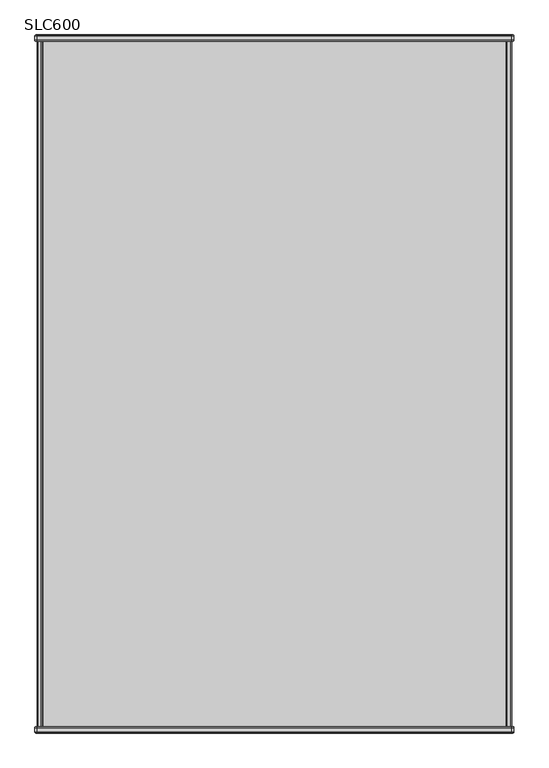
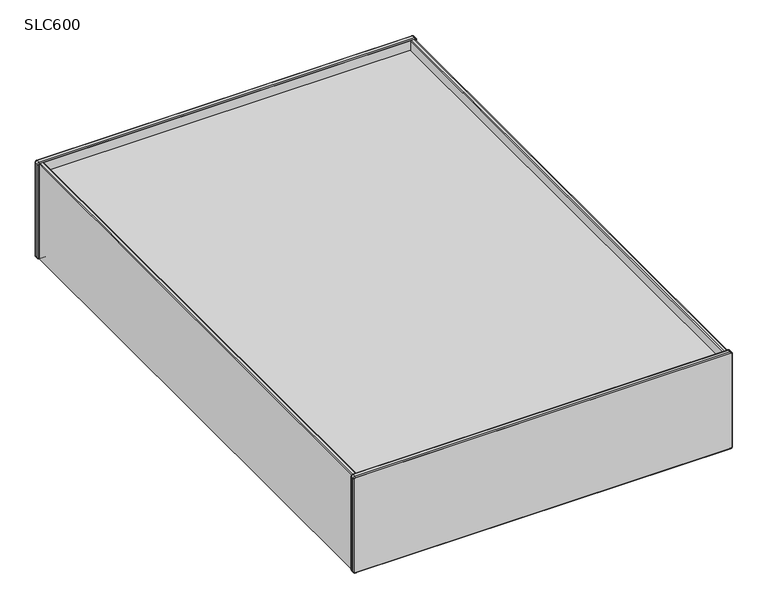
"""IFC4 building model written with IfcOpenShell, lengths in millimetres: furniture geometry, Stance_HC-Lotus-Platform_Bed : SLC600."""

from ifc_helpers import new_model, si_unit, point, frame, frame_2d, origin, place, context, project, spatial, polyline, circle_curve, ellipse_curve, trimmed, segment, composite_curve, outline, extrude, source, transform, mapped, element, save
from ifc_brep_helpers import plane_surface, cylinder_surface, revolved_surface, advanced_brep


def slc600_16307067(model_context):
    return source(origin(), model_context, "Body", "SolidModel", [
        extrude(outline(polyline([(1404.1437258, -2063.75), (24.6062492, -2063.75), (24.6062492, -19.05), (1404.1437258, -19.05), (1404.1437258, -2063.75)])), frame((0.0, 0.0, 323.85), z_axis=(0.0, 0.0, 1.0), x_axis=(1.0, 0.0, 0.0)), (0.0, 0.0, 1.0), 19.05),
        extrude(outline(composite_curve([segment(polyline([(0.0, 22.2249992), (377.825, 22.2249992)]), True, "CONTINUOUS"), segment(trimmed(circle_curve(frame_2d((377.825, 19.0499992)), 3.175), [point((377.825, 22.2249992))], [point((381.0, 19.0499992))], False, "CARTESIAN"), True, "CONTINUOUS"), segment(polyline([(381.0, 19.0499992), (381.0, 9.5250002)]), True, "CONTINUOUS"), segment(trimmed(circle_curve(frame_2d((377.825, 9.5250002)), 3.175), [point((381.0, 9.5250002))], [point((377.825, 6.3500002))], False, "CARTESIAN"), True, "CONTINUOUS"), segment(polyline([(377.825, 6.3500002), (0.0, 6.3500002), (0.0, 22.2249992)]), True, "CONTINUOUS")], self_intersect=False)), frame((0.0, -2063.75, 0.0), z_axis=(0.0, 1.0, 0.0), x_axis=(0.0, 0.0, 1.0)), (0.0, 0.0, 1.0), 2044.7),
        extrude(outline(composite_curve([segment(polyline([(0.0, 1406.5250008), (0.0, 1422.3999998), (377.825, 1422.3999998)]), True, "CONTINUOUS"), segment(trimmed(circle_curve(frame_2d((377.825, 1419.2249998)), 3.175), [point((377.825, 1422.3999998))], [point((381.0, 1419.2249998))], False, "CARTESIAN"), True, "CONTINUOUS"), segment(polyline([(381.0, 1419.2249998), (381.0, 1409.7000008)]), True, "CONTINUOUS"), segment(trimmed(circle_curve(frame_2d((377.825, 1409.7000008)), 3.175), [point((381.0, 1409.7000008))], [point((377.825, 1406.5250008))], False, "CARTESIAN"), True, "CONTINUOUS"), segment(polyline([(377.825, 1406.5250008), (0.0, 1406.5250008)]), True, "CONTINUOUS")], self_intersect=False)), frame((0.0, -2063.75, 0.0), z_axis=(0.0, 1.0, 0.0), x_axis=(0.0, 0.0, 1.0)), (0.0, 0.0, 1.0), 2044.7),
        extrude(outline(composite_curve([segment(trimmed(circle_curve(frame_2d((6.35, 1422.4)), 3.1749999), [point((3.1750001, 1422.4))], [point((6.35, 1425.5749999))], False, "CARTESIAN"), True, "CONTINUOUS"), segment(polyline([(6.35, 1425.5749999), (377.8249879, 1425.5749999)]), True, "CONTINUOUS"), segment(trimmed(circle_curve(frame_2d((377.8249879, 1422.4)), 3.1749999), [point((377.8249879, 1425.5749999))], [point((380.9999878, 1422.4))], False, "CARTESIAN"), True, "CONTINUOUS"), segment(polyline([(380.9999878, 1422.4), (380.9999878, 6.35)]), True, "CONTINUOUS"), segment(trimmed(circle_curve(frame_2d((377.8249879, 6.35)), 3.1749999), [point((380.9999878, 6.35))], [point((377.8249879, 3.1750001))], False, "CARTESIAN"), True, "CONTINUOUS"), segment(polyline([(377.8249879, 3.1750001), (6.35, 3.1750001)]), True, "CONTINUOUS"), segment(trimmed(circle_curve(frame_2d((6.35, 6.35)), 3.1749999), [point((6.35, 3.1750001))], [point((3.1750001, 6.35))], False, "CARTESIAN"), True, "CONTINUOUS"), segment(polyline([(3.1750001, 6.35), (3.1750001, 1422.4)]), True, "CONTINUOUS")], self_intersect=False)), frame((0.0, -2082.8, 0.0), z_axis=(0.0, 1.0, 0.0), x_axis=(0.0, 0.0, 1.0)), (0.0, 0.0, 1.0), 19.05),
        extrude(outline(composite_curve([segment(polyline([(3.1750001, 6.35), (3.1750001, 1422.4)]), True, "CONTINUOUS"), segment(trimmed(circle_curve(frame_2d((6.35, 1422.4)), 3.1749999), [point((3.1750001, 1422.4))], [point((6.35, 1425.5749999))], False, "CARTESIAN"), True, "CONTINUOUS"), segment(polyline([(6.35, 1425.5749999), (377.8249879, 1425.5749999)]), True, "CONTINUOUS"), segment(trimmed(circle_curve(frame_2d((377.8249879, 1422.4)), 3.1749999), [point((377.8249879, 1425.5749999))], [point((380.9999878, 1422.4))], False, "CARTESIAN"), True, "CONTINUOUS"), segment(polyline([(380.9999878, 1422.4), (380.9999878, 6.35)]), True, "CONTINUOUS"), segment(trimmed(circle_curve(frame_2d((377.8249879, 6.35)), 3.1749999), [point((380.9999878, 6.35))], [point((377.8249879, 3.1750001))], False, "CARTESIAN"), True, "CONTINUOUS"), segment(polyline([(377.8249879, 3.1750001), (6.35, 3.1750001)]), True, "CONTINUOUS"), segment(trimmed(circle_curve(frame_2d((6.35, 6.35)), 3.1749999), [point((6.35, 3.1750001))], [point((3.1750001, 6.35))], False, "CARTESIAN"), True, "CONTINUOUS")], self_intersect=False)), frame((0.0, -19.05, 0.0), z_axis=(0.0, 1.0, 0.0), x_axis=(0.0, 0.0, 1.0)), (0.0, 0.0, 1.0), 19.05),
        advanced_brep(
        [(1428.75, -2066.9250001, 6.35), (1422.4, -2066.9250001, 0.0), (1422.4, -2063.75, 3.1750001), (1425.5749999, -2063.75, 6.35), (1422.4, -2082.8, 3.1750001), (1425.5749999, -2082.8, 6.35), (1422.4, -2079.6249999, 0.0), (1428.75, -2079.6249999, 6.35), (1425.5749999, -2063.75, 377.8249879), (1428.75, -2066.9250001, 377.8249879), (1425.5749999, -2082.8, 377.8249879), (1428.75, -2079.6249999, 377.8249879), (1422.4, -2066.9250001, 384.1749879), (1422.4, -2063.75, 380.9999878), (1422.4, -2082.8, 380.9999878), (1422.4, -2079.6249999, 384.1749879), (6.35, -2063.75, 380.9999878), (6.35, -2066.9250001, 384.1749879), (6.35, -2082.8, 380.9999878), (6.35, -2079.6249999, 384.1749879), (0.0, -2066.9250001, 377.8249879), (3.1750001, -2063.75, 377.8249879), (3.1750001, -2082.8, 377.8249879), (0.0, -2079.6249999, 377.8249879), (3.1750001, -2063.75, 6.35), (0.0, -2066.9250001, 6.35), (3.1750001, -2082.8, 6.35), (0.0, -2079.6249999, 6.35), (6.35, -2066.9250001, 0.0), (6.35, -2063.75, 3.1750001), (6.35, -2082.8, 3.1750001), (6.35, -2079.6249999, 0.0)],
        [
            (0, 1, circle_curve(frame((1422.4, -2066.9250001, 6.35), z_axis=(0.0, 1.0, 0.0), x_axis=(0.0, 0.0, -1.0)), 6.35)),
            (1, 2, circle_curve(frame((1422.4, -2066.9250001, 3.1750001), z_axis=(1.0, 0.0, 0.0), x_axis=(0.0, 0.0, -1.0)), 3.1750001)),
            (2, 3, circle_curve(frame((1422.4, -2063.75, 6.35), z_axis=(0.0, -1.0, 0.0), x_axis=(0.0, 0.0, -1.0)), 3.1749999)),
            (3, 0, circle_curve(frame((1425.5749999, -2066.9250001, 6.35), z_axis=(0.0, 0.0, -1.0), x_axis=(1.0, 0.0, 0.0)), 3.1750001)),
            (2, 4),
            (4, 5, circle_curve(frame((1422.4, -2082.8, 6.35), z_axis=(0.0, -1.0, 0.0), x_axis=(0.0, 0.0, -1.0)), 3.1749999)),
            (5, 3),
            (4, 6, circle_curve(frame((1422.4, -2079.6249999, 3.1750001), z_axis=(1.0, 0.0, 0.0), x_axis=(0.0, 0.0, -1.0)), 3.1750001)),
            (6, 7, circle_curve(frame((1422.4, -2079.6249999, 6.35), z_axis=(0.0, -1.0, 0.0), x_axis=(0.0, 0.0, -1.0)), 6.35)),
            (7, 5, circle_curve(frame((1425.5749999, -2079.6249999, 6.35), z_axis=(0.0, 0.0, -1.0), x_axis=(1.0, 0.0, 0.0)), 3.1750001)),
            (6, 1),
            (0, 7),
            (3, 8),
            (8, 9, circle_curve(frame((1425.5749999, -2066.9250001, 377.8249879), z_axis=(0.0, 0.0, -1.0), x_axis=(1.0, 0.0, 0.0)), 3.1750001)),
            (9, 0),
            (5, 10),
            (10, 8),
            (7, 11),
            (11, 10, circle_curve(frame((1425.5749999, -2079.6249999, 377.8249879), z_axis=(0.0, 0.0, -1.0), x_axis=(1.0, 0.0, 0.0)), 3.1750001)),
            (9, 11),
            (12, 9, circle_curve(frame((1422.4, -2066.9250001, 377.8249879), z_axis=(0.0, 1.0, 0.0), x_axis=(1.0, 0.0, 0.0)), 6.35)),
            (8, 13, circle_curve(frame((1422.4, -2063.75, 377.8249879), z_axis=(0.0, -1.0, 0.0), x_axis=(1.0, 0.0, 0.0)), 3.1749999)),
            (13, 12, circle_curve(frame((1422.4, -2066.9250001, 380.9999878), z_axis=(1.0, 0.0, 0.0), x_axis=(0.0, 0.0, 1.0)), 3.1750001)),
            (10, 14, circle_curve(frame((1422.4, -2082.8, 377.8249879), z_axis=(0.0, -1.0, 0.0), x_axis=(1.0, 0.0, 0.0)), 3.1749999)),
            (14, 13),
            (11, 15, circle_curve(frame((1422.4, -2079.6249999, 377.8249879), z_axis=(0.0, -1.0, 0.0), x_axis=(1.0, 0.0, 0.0)), 6.35)),
            (15, 14, circle_curve(frame((1422.4, -2079.6249999, 380.9999878), z_axis=(1.0, 0.0, 0.0), x_axis=(0.0, 0.0, 1.0)), 3.1750001)),
            (12, 15),
            (13, 16),
            (16, 17, circle_curve(frame((6.35, -2066.9250001, 380.9999878), z_axis=(1.0, 0.0, 0.0), x_axis=(0.0, 0.0, 1.0)), 3.1750001)),
            (17, 12),
            (14, 18),
            (18, 16),
            (15, 19),
            (19, 18, circle_curve(frame((6.35, -2079.6249999, 380.9999878), z_axis=(1.0, 0.0, 0.0), x_axis=(0.0, 0.0, 1.0)), 3.1750001)),
            (17, 19),
            (20, 17, circle_curve(frame((6.35, -2066.9250001, 377.8249879), z_axis=(0.0, 1.0, 0.0), x_axis=(0.0, 0.0, 1.0)), 6.35)),
            (16, 21, circle_curve(frame((6.35, -2063.75, 377.8249879), z_axis=(0.0, -1.0, 0.0), x_axis=(0.0, 0.0, 1.0)), 3.1749999)),
            (21, 20, circle_curve(frame((3.1750001, -2066.9250001, 377.8249879), z_axis=(0.0, 0.0, 1.0), x_axis=(-1.0, 0.0, 0.0)), 3.1750001)),
            (18, 22, circle_curve(frame((6.35, -2082.8, 377.8249879), z_axis=(0.0, -1.0, 0.0), x_axis=(0.0, 0.0, 1.0)), 3.1749999)),
            (22, 21),
            (19, 23, circle_curve(frame((6.35, -2079.6249999, 377.8249879), z_axis=(0.0, -1.0, 0.0), x_axis=(0.0, 0.0, 1.0)), 6.35)),
            (23, 22, circle_curve(frame((3.1750001, -2079.6249999, 377.8249879), z_axis=(0.0, 0.0, 1.0), x_axis=(-1.0, 0.0, 0.0)), 3.1750001)),
            (20, 23),
            (21, 24),
            (24, 25, circle_curve(frame((3.1750001, -2066.9250001, 6.35), z_axis=(0.0, 0.0, 1.0), x_axis=(-1.0, 0.0, 0.0)), 3.1750001)),
            (25, 20),
            (22, 26),
            (26, 24),
            (23, 27),
            (27, 26, circle_curve(frame((3.1750001, -2079.6249999, 6.35), z_axis=(0.0, 0.0, 1.0), x_axis=(-1.0, 0.0, 0.0)), 3.1750001)),
            (25, 27),
            (28, 25, circle_curve(frame((6.35, -2066.9250001, 6.35), z_axis=(0.0, 1.0, 0.0), x_axis=(-1.0, 0.0, 0.0)), 6.35)),
            (24, 29, circle_curve(frame((6.35, -2063.75, 6.35), z_axis=(0.0, -1.0, 0.0), x_axis=(-1.0, 0.0, 0.0)), 3.1749999)),
            (29, 28, circle_curve(frame((6.35, -2066.9250001, 3.1750001), z_axis=(-1.0, 0.0, -2.6133808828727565e-12), x_axis=(2.6133808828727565e-12, 0.0, -1.0)), 3.1750001)),
            (26, 30, circle_curve(frame((6.35, -2082.8, 6.35), z_axis=(0.0, -1.0, 0.0), x_axis=(-1.0, 0.0, 0.0)), 3.1749999)),
            (30, 29),
            (27, 31, circle_curve(frame((6.35, -2079.6249999, 6.35), z_axis=(0.0, -1.0, 0.0), x_axis=(-1.0, 0.0, 0.0)), 6.35)),
            (31, 30, circle_curve(frame((6.35, -2079.6249999, 3.1750001), z_axis=(-1.0, 0.0, -1.3004311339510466e-12), x_axis=(1.3004311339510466e-12, 0.0, -1.0)), 3.1750001)),
            (28, 31),
            (29, 2),
            (1, 28),
            (30, 4),
            (31, 6),
        ],
        [
            revolved_surface(trimmed(ellipse_curve(frame((1422.4, -2066.9250001, 3.1750001), z_axis=(-1.0, 0.0, 0.0), x_axis=(0.0, 0.0, -1.0)), 3.1750001, 3.1750001), [point((1422.4, -2063.75, 3.1750001))], [point((1422.4, -2066.9250001, 0.0))], True, "CARTESIAN"), (1422.4, -2082.8, 6.35), (0.0, -1.0, 0.0)),
            revolved_surface(polyline([(1422.4, -2082.8, 3.1750000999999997), (1422.4, -2063.75, 3.1750000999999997)]), (1422.4, -2082.8, 6.35), (0.0, -1.0, 0.0)),
            revolved_surface(trimmed(ellipse_curve(frame((1422.4, -2079.6249999, 3.1750001), z_axis=(-1.0, 0.0, 0.0), x_axis=(0.0, 0.0, -1.0)), 3.1750001, 3.1750001), [point((1422.4, -2079.6249999, 0.0))], [point((1422.4, -2082.8, 3.1750001))], True, "CARTESIAN"), (1422.4, -2082.8, 6.35), (0.0, -1.0, 0.0)),
            cylinder_surface(frame((1422.4, -2082.8, 6.35), z_axis=(0.0, -1.0, 0.0), x_axis=(0.0, 0.0, -1.0)), 6.35),
            cylinder_surface(frame((1425.5749999, -2066.9250001, 6.35), z_axis=(0.0, 0.0, -1.0), x_axis=(1.0, 0.0, 0.0)), 3.1750001),
            plane_surface(frame((1425.5749999, -2082.8, 6.35), z_axis=(-1.0, 0.0, 0.0), x_axis=(0.0, 0.0, 1.0))),
            cylinder_surface(frame((1425.5749999, -2079.6249999, 6.35), z_axis=(0.0, 0.0, -1.0), x_axis=(1.0, 0.0, 0.0)), 3.1750001),
            plane_surface(frame((1428.75, -2066.9250001, 6.35), z_axis=(1.0, 0.0, 0.0), x_axis=(0.0, 0.0, 1.0))),
            revolved_surface(trimmed(ellipse_curve(frame((1425.5749999, -2066.9250001, 377.8249879), z_axis=(0.0, 0.0, -1.0), x_axis=(1.0, 0.0, 0.0)), 3.1750001, 3.1750001), [point((1425.5749999, -2063.75, 377.8249879))], [point((1428.75, -2066.9250001, 377.8249879))], True, "CARTESIAN"), (1422.4, -2082.8, 377.8249879), (0.0, -1.0, 0.0)),
            revolved_surface(polyline([(1425.5749999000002, -2082.8, 377.8249879), (1425.5749999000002, -2063.75, 377.8249879)]), (1422.4, -2082.8, 377.8249879), (0.0, -1.0, 0.0)),
            revolved_surface(trimmed(ellipse_curve(frame((1425.5749999, -2079.6249999, 377.8249879), z_axis=(0.0, 0.0, -1.0), x_axis=(1.0, 0.0, 0.0)), 3.1750001, 3.1750001), [point((1428.75, -2079.6249999, 377.8249879))], [point((1425.5749999, -2082.8, 377.8249879))], True, "CARTESIAN"), (1422.4, -2082.8, 377.8249879), (0.0, -1.0, 0.0)),
            cylinder_surface(frame((1422.4, -2082.8, 377.8249879), z_axis=(0.0, -1.0, 0.0), x_axis=(1.0, 0.0, 0.0)), 6.35),
            cylinder_surface(frame((1422.4, -2066.9250001, 380.9999878), z_axis=(1.0, 0.0, 0.0), x_axis=(0.0, 0.0, 1.0)), 3.1750001),
            plane_surface(frame((1422.4, -2082.8, 380.9999878), z_axis=(0.0, 0.0, -1.0), x_axis=(-1.0, 0.0, 0.0))),
            cylinder_surface(frame((1422.4, -2079.6249999, 380.9999878), z_axis=(1.0, 0.0, 0.0), x_axis=(0.0, 0.0, 1.0)), 3.1750001),
            plane_surface(frame((1422.4, -2066.9250001, 384.1749879), z_axis=(0.0, 0.0, 1.0), x_axis=(-1.0, 0.0, 0.0))),
            revolved_surface(trimmed(ellipse_curve(frame((6.35, -2066.9250001, 380.9999878), z_axis=(1.0, 0.0, 0.0), x_axis=(0.0, 0.0, 1.0)), 3.1750001, 3.1750001), [point((6.35, -2063.75, 380.9999878))], [point((6.35, -2066.9250001, 384.1749879))], True, "CARTESIAN"), (6.35, -2082.8, 377.8249879), (0.0, -1.0, 0.0)),
            revolved_surface(polyline([(6.35, -2082.8, 380.9999878), (6.35, -2063.75, 380.9999878)]), (6.35, -2082.8, 377.8249879), (0.0, -1.0, 0.0)),
            revolved_surface(trimmed(ellipse_curve(frame((6.35, -2079.6249999, 380.9999878), z_axis=(1.0, 0.0, 0.0), x_axis=(0.0, 0.0, 1.0)), 3.1750001, 3.1750001), [point((6.35, -2079.6249999, 384.1749879))], [point((6.35, -2082.8, 380.9999878))], True, "CARTESIAN"), (6.35, -2082.8, 377.8249879), (0.0, -1.0, 0.0)),
            cylinder_surface(frame((6.35, -2082.8, 377.8249879), z_axis=(0.0, -1.0, 0.0), x_axis=(0.0, 0.0, 1.0)), 6.35),
            cylinder_surface(frame((3.1750001, -2066.9250001, 377.8249879), z_axis=(0.0, 0.0, 1.0), x_axis=(-1.0, 0.0, 0.0)), 3.1750001),
            plane_surface(frame((3.1750001, -2082.8, 377.8249879), z_axis=(1.0, 0.0, 0.0), x_axis=(0.0, 0.0, -1.0))),
            cylinder_surface(frame((3.1750001, -2079.6249999, 377.8249879), z_axis=(0.0, 0.0, 1.0), x_axis=(-1.0, 0.0, 0.0)), 3.1750001),
            plane_surface(frame((0.0, -2066.9250001, 377.8249879), z_axis=(-1.0, 0.0, 0.0), x_axis=(0.0, 0.0, -1.0))),
            revolved_surface(trimmed(ellipse_curve(frame((3.1750001, -2066.9250001, 6.35), z_axis=(0.0, 0.0, 1.0), x_axis=(-1.0, 0.0, 0.0)), 3.1750001, 3.1750001), [point((3.1750001, -2063.75, 6.35))], [point((0.0, -2066.9250001, 6.35))], True, "CARTESIAN"), (6.35, -2082.8, 6.35), (0.0, -1.0, 0.0)),
            revolved_surface(polyline([(3.1750000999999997, -2082.8, 6.35), (3.1750000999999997, -2063.75, 6.35)]), (6.35, -2082.8, 6.35), (0.0, -1.0, 0.0)),
            revolved_surface(trimmed(ellipse_curve(frame((3.1750001, -2079.6249999, 6.35), z_axis=(0.0, 0.0, 1.0), x_axis=(-1.0, 0.0, 0.0)), 3.1750001, 3.1750001), [point((0.0, -2079.6249999, 6.35))], [point((3.1750001, -2082.8, 6.35))], True, "CARTESIAN"), (6.35, -2082.8, 6.35), (0.0, -1.0, 0.0)),
            cylinder_surface(frame((6.35, -2082.8, 6.35), z_axis=(0.0, -1.0, 0.0), x_axis=(-1.0, 0.0, 0.0)), 6.35),
            cylinder_surface(frame((6.35, -2066.9250001, 3.1750001), z_axis=(-1.0, 0.0, 0.0), x_axis=(0.0, 0.0, -1.0)), 3.1750001),
            plane_surface(frame((6.35, -2082.8, 3.1750001), z_axis=(0.0, 0.0, 1.0), x_axis=(1.0, 0.0, 0.0))),
            cylinder_surface(frame((6.35, -2079.6249999, 3.1750001), z_axis=(-1.0, 0.0, 0.0), x_axis=(0.0, 0.0, -1.0)), 3.1750001),
            plane_surface(frame((6.35, -2066.9250001, 0.0), z_axis=(0.0, 0.0, -1.0), x_axis=(1.0, 0.0, 0.0))),
        ],
        [
            (0, [[1, 2, 3, 4]]),
            (1, [[-3, 5, 6, 7]]),
            (2, [[-6, 8, 9, 10]]),
            (3, [[-9, 11, -1, 12]]),
            (4, [[-4, 13, 14, 15]]),
            (5, [[-7, 16, 17, -13]]),
            (6, [[-10, 18, 19, -16]]),
            (7, [[-12, -15, 20, -18]]),
            (8, [[21, -14, 22, 23]]),
            (9, [[-22, -17, 24, 25]]),
            (10, [[-24, -19, 26, 27]]),
            (11, [[-26, -20, -21, 28]]),
            (12, [[-23, 29, 30, 31]]),
            (13, [[-25, 32, 33, -29]]),
            (14, [[-27, 34, 35, -32]]),
            (15, [[-28, -31, 36, -34]]),
            (16, [[37, -30, 38, 39]]),
            (17, [[-38, -33, 40, 41]]),
            (18, [[-40, -35, 42, 43]]),
            (19, [[-42, -36, -37, 44]]),
            (20, [[-39, 45, 46, 47]]),
            (21, [[-41, 48, 49, -45]]),
            (22, [[-43, 50, 51, -48]]),
            (23, [[-44, -47, 52, -50]]),
            (24, [[53, -46, 54, 55]]),
            (25, [[-54, -49, 56, 57]]),
            (26, [[-56, -51, 58, 59]]),
            (27, [[-58, -52, -53, 60]]),
            (28, [[-55, 61, -2, 62]]),
            (29, [[-57, 63, -5, -61]]),
            (30, [[-59, 64, -8, -63]]),
            (31, [[-60, -62, -11, -64]]),
        ],
    ),
        advanced_brep(
        [(1425.5749999, -19.05, 6.35), (1422.4, -19.05, 3.1750001), (1422.4, -15.8749999, 0.0), (1428.75, -15.8749999, 6.35), (1425.5749999, 0.0, 6.35), (1422.4, 0.0, 3.1750001), (1428.75, -3.1750001, 6.35), (1422.4, -3.1750001, 0.0), (1428.75, -15.8749999, 377.8249879), (1425.5749999, -19.05, 377.8249879), (1425.5749999, 0.0, 377.8249879), (1428.75, -3.1750001, 377.8249879), (1422.4, -19.05, 380.9999878), (1422.4, -15.8749999, 384.1749879), (1422.4, 0.0, 380.9999878), (1422.4, -3.1750001, 384.1749879), (6.35, -15.8749999, 384.1749879), (6.35, -19.05, 380.9999878), (6.35, 0.0, 380.9999878), (6.35, -3.1750001, 384.1749879), (3.1750001, -19.05, 377.8249879), (0.0, -15.8749999, 377.8249879), (3.1750001, 0.0, 377.8249879), (0.0, -3.1750001, 377.8249879), (0.0, -15.8749999, 6.35), (3.1750001, -19.05, 6.35), (3.1750001, 0.0, 6.35), (0.0, -3.1750001, 6.35), (6.35, -19.05, 3.1750001), (6.35, -15.8749999, 0.0), (6.35, 0.0, 3.1750001), (6.35, -3.1750001, 0.0)],
        [
            (0, 1, circle_curve(frame((1422.4, -19.05, 6.35), z_axis=(0.0, 1.0, 0.0), x_axis=(0.0, 0.0, -1.0)), 3.1749999)),
            (1, 2, circle_curve(frame((1422.4, -15.8749999, 3.1750001), z_axis=(1.0, 0.0, 0.0), x_axis=(0.0, 0.0, 1.0)), 3.1750001)),
            (2, 3, circle_curve(frame((1422.4, -15.8749999, 6.35), z_axis=(0.0, -1.0, 0.0), x_axis=(0.0, 0.0, -1.0)), 6.35)),
            (3, 0, circle_curve(frame((1425.5749999, -15.8749999, 6.35), z_axis=(0.0, 0.0, -1.0), x_axis=(-1.0, 0.0, 0.0)), 3.1750001)),
            (4, 5, circle_curve(frame((1422.4, 0.0, 6.35), z_axis=(0.0, 1.0, 0.0), x_axis=(0.0, 0.0, -1.0)), 3.1749999)),
            (5, 1),
            (0, 4),
            (6, 7, circle_curve(frame((1422.4, -3.1750001, 6.35), z_axis=(0.0, 1.0, 0.0), x_axis=(0.0, 0.0, -1.0)), 6.35)),
            (7, 5, circle_curve(frame((1422.4, -3.1750001, 3.1750001), z_axis=(1.0, 0.0, 0.0), x_axis=(0.0, 0.0, 1.0)), 3.1750001)),
            (4, 6, circle_curve(frame((1425.5749999, -3.1750001, 6.35), z_axis=(0.0, 0.0, -1.0), x_axis=(-1.0, 0.0, 0.0)), 3.1750001)),
            (2, 7),
            (6, 3),
            (3, 8),
            (8, 9, circle_curve(frame((1425.5749999, -15.8749999, 377.8249879), z_axis=(0.0, 0.0, -1.0), x_axis=(-1.0, 0.0, 0.0)), 3.1750001)),
            (9, 0),
            (9, 10),
            (10, 4),
            (10, 11, circle_curve(frame((1425.5749999, -3.1750001, 377.8249879), z_axis=(0.0, 0.0, -1.0), x_axis=(-1.0, 0.0, 0.0)), 3.1750001)),
            (11, 6),
            (11, 8),
            (12, 9, circle_curve(frame((1422.4, -19.05, 377.8249879), z_axis=(0.0, 1.0, 0.0), x_axis=(1.0, 0.0, 0.0)), 3.1749999)),
            (8, 13, circle_curve(frame((1422.4, -15.8749999, 377.8249879), z_axis=(0.0, -1.0, 0.0), x_axis=(1.0, 0.0, 0.0)), 6.35)),
            (13, 12, circle_curve(frame((1422.4, -15.8749999, 380.9999878), z_axis=(1.0, 0.0, 0.0), x_axis=(0.0, 0.0, -1.0)), 3.1750001)),
            (14, 10, circle_curve(frame((1422.4, 0.0, 377.8249879), z_axis=(0.0, 1.0, 0.0), x_axis=(1.0, 0.0, 0.0)), 3.1749999)),
            (12, 14),
            (15, 11, circle_curve(frame((1422.4, -3.1750001, 377.8249879), z_axis=(0.0, 1.0, 0.0), x_axis=(1.0, 0.0, 0.0)), 6.35)),
            (14, 15, circle_curve(frame((1422.4, -3.1750001, 380.9999878), z_axis=(1.0, 0.0, 0.0), x_axis=(0.0, 0.0, -1.0)), 3.1750001)),
            (15, 13),
            (13, 16),
            (16, 17, circle_curve(frame((6.35, -15.8749999, 380.9999878), z_axis=(1.0, 0.0, 0.0), x_axis=(0.0, 0.0, -1.0)), 3.1750001)),
            (17, 12),
            (17, 18),
            (18, 14),
            (18, 19, circle_curve(frame((6.35, -3.1750001, 380.9999878), z_axis=(1.0, 0.0, 0.0), x_axis=(0.0, 0.0, -1.0)), 3.1750001)),
            (19, 15),
            (19, 16),
            (20, 17, circle_curve(frame((6.35, -19.05, 377.8249879), z_axis=(0.0, 1.0, 0.0), x_axis=(0.0, 0.0, 1.0)), 3.1749999)),
            (16, 21, circle_curve(frame((6.35, -15.8749999, 377.8249879), z_axis=(0.0, -1.0, 0.0), x_axis=(0.0, 0.0, 1.0)), 6.35)),
            (21, 20, circle_curve(frame((3.1750001, -15.8749999, 377.8249879), z_axis=(3.259982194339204e-12, 0.0, 1.0), x_axis=(1.0, 0.0, -3.259982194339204e-12)), 3.1750001)),
            (22, 18, circle_curve(frame((6.35, 0.0, 377.8249879), z_axis=(0.0, 1.0, 0.0), x_axis=(0.0, 0.0, 1.0)), 3.1749999)),
            (20, 22),
            (23, 19, circle_curve(frame((6.35, -3.1750001, 377.8249879), z_axis=(0.0, 1.0, 0.0), x_axis=(0.0, 0.0, 1.0)), 6.35)),
            (22, 23, circle_curve(frame((3.1750001, -3.1750001, 377.8249879), z_axis=(6.510715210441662e-12, 0.0, 1.0), x_axis=(1.0, 0.0, -6.510715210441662e-12)), 3.1750001)),
            (23, 21),
            (21, 24),
            (24, 25, circle_curve(frame((3.1750001, -15.8749999, 6.35), z_axis=(0.0, 0.0, 1.0), x_axis=(1.0, 0.0, 0.0)), 3.1750001)),
            (25, 20),
            (25, 26),
            (26, 22),
            (26, 27, circle_curve(frame((3.1750001, -3.1750001, 6.35), z_axis=(0.0, 0.0, 1.0), x_axis=(1.0, 0.0, 0.0)), 3.1750001)),
            (27, 23),
            (27, 24),
            (28, 25, circle_curve(frame((6.35, -19.05, 6.35), z_axis=(0.0, 1.0, 0.0), x_axis=(-1.0, 0.0, 0.0)), 3.1749999)),
            (24, 29, circle_curve(frame((6.35, -15.8749999, 6.35), z_axis=(0.0, -1.0, 0.0), x_axis=(-1.0, 0.0, 0.0)), 6.35)),
            (29, 28, circle_curve(frame((6.35, -15.8749999, 3.1750001), z_axis=(-1.0, 0.0, 0.0), x_axis=(0.0, 0.0, 1.0)), 3.1750001)),
            (30, 26, circle_curve(frame((6.35, 0.0, 6.35), z_axis=(0.0, 1.0, 0.0), x_axis=(-1.0, 0.0, 0.0)), 3.1749999)),
            (28, 30),
            (31, 27, circle_curve(frame((6.35, -3.1750001, 6.35), z_axis=(0.0, 1.0, 0.0), x_axis=(-1.0, 0.0, 0.0)), 6.35)),
            (30, 31, circle_curve(frame((6.35, -3.1750001, 3.1750001), z_axis=(-1.0, 0.0, 0.0), x_axis=(0.0, 0.0, 1.0)), 3.1750001)),
            (31, 29),
            (29, 2),
            (1, 28),
            (5, 30),
            (7, 31),
        ],
        [
            revolved_surface(trimmed(ellipse_curve(frame((1422.4, -15.8749999, 3.1750001), z_axis=(-1.0, 0.0, 0.0), x_axis=(0.0, 0.0, 1.0)), 3.1750001, 3.1750001), [point((1422.4, -15.8749999, 0.0))], [point((1422.4, -19.05, 3.1750001))], True, "CARTESIAN"), (1422.4, 0.0, 6.35), (0.0, -1.0, 0.0)),
            revolved_surface(polyline([(1422.4, -19.05, 3.1750000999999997), (1422.4, 0.0, 3.1750000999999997)]), (1422.4, 0.0, 6.35), (0.0, -1.0, 0.0)),
            revolved_surface(trimmed(ellipse_curve(frame((1422.4, -3.1750001, 3.1750001), z_axis=(-1.0, 0.0, 0.0), x_axis=(0.0, 0.0, 1.0)), 3.1750001, 3.1750001), [point((1422.4, 0.0, 3.1750001))], [point((1422.4, -3.1750001, 0.0))], True, "CARTESIAN"), (1422.4, 0.0, 6.35), (0.0, -1.0, 0.0)),
            cylinder_surface(frame((1422.4, 0.0, 6.35), z_axis=(0.0, -1.0, 0.0), x_axis=(0.0, 0.0, -1.0)), 6.35),
            cylinder_surface(frame((1425.5749999, -15.8749999, 6.35), z_axis=(0.0, 0.0, -1.0), x_axis=(-1.0, 0.0, 0.0)), 3.1750001),
            plane_surface(frame((1425.5749999, -19.05, 6.35), z_axis=(-1.0, 0.0, 0.0), x_axis=(0.0, 0.0, 1.0))),
            cylinder_surface(frame((1425.5749999, -3.1750001, 6.35), z_axis=(0.0, 0.0, -1.0), x_axis=(-1.0, 0.0, 0.0)), 3.1750001),
            plane_surface(frame((1428.75, -3.1750001, 6.35), z_axis=(1.0, 0.0, 0.0), x_axis=(0.0, 0.0, 1.0))),
            revolved_surface(trimmed(ellipse_curve(frame((1425.5749999, -15.8749999, 377.8249879), z_axis=(0.0, 0.0, -1.0), x_axis=(-1.0, 0.0, 0.0)), 3.1750001, 3.1750001), [point((1428.75, -15.8749999, 377.8249879))], [point((1425.5749999, -19.05, 377.8249879))], True, "CARTESIAN"), (1422.4, 0.0, 377.8249879), (0.0, -1.0, 0.0)),
            revolved_surface(polyline([(1425.5749999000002, -19.05, 377.8249879), (1425.5749999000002, 0.0, 377.8249879)]), (1422.4, 0.0, 377.8249879), (0.0, -1.0, 0.0)),
            revolved_surface(trimmed(ellipse_curve(frame((1425.5749999, -3.1750001, 377.8249879), z_axis=(0.0, 0.0, -1.0), x_axis=(-1.0, 0.0, 0.0)), 3.1750001, 3.1750001), [point((1425.5749999, 0.0, 377.8249879))], [point((1428.75, -3.1750001, 377.8249879))], True, "CARTESIAN"), (1422.4, 0.0, 377.8249879), (0.0, -1.0, 0.0)),
            cylinder_surface(frame((1422.4, 0.0, 377.8249879), z_axis=(0.0, -1.0, 0.0), x_axis=(1.0, 0.0, 0.0)), 6.35),
            cylinder_surface(frame((1422.4, -15.8749999, 380.9999878), z_axis=(1.0, 0.0, 0.0), x_axis=(0.0, 0.0, -1.0)), 3.1750001),
            plane_surface(frame((1422.4, -19.05, 380.9999878), z_axis=(0.0, 0.0, -1.0), x_axis=(-1.0, 0.0, 0.0))),
            cylinder_surface(frame((1422.4, -3.1750001, 380.9999878), z_axis=(1.0, 0.0, 0.0), x_axis=(0.0, 0.0, -1.0)), 3.1750001),
            plane_surface(frame((1422.4, -3.1750001, 384.1749879), z_axis=(0.0, 0.0, 1.0), x_axis=(-1.0, 0.0, 0.0))),
            revolved_surface(trimmed(ellipse_curve(frame((6.35, -15.8749999, 380.9999878), z_axis=(1.0, 0.0, 0.0), x_axis=(0.0, 0.0, -1.0)), 3.1750001, 3.1750001), [point((6.35, -15.8749999, 384.1749879))], [point((6.35, -19.05, 380.9999878))], True, "CARTESIAN"), (6.35, 0.0, 377.8249879), (0.0, -1.0, 0.0)),
            revolved_surface(polyline([(6.35, -19.05, 380.9999878), (6.35, 0.0, 380.9999878)]), (6.35, 0.0, 377.8249879), (0.0, -1.0, 0.0)),
            revolved_surface(trimmed(ellipse_curve(frame((6.35, -3.1750001, 380.9999878), z_axis=(1.0, 0.0, 0.0), x_axis=(0.0, 0.0, -1.0)), 3.1750001, 3.1750001), [point((6.35, 0.0, 380.9999878))], [point((6.35, -3.1750001, 384.1749879))], True, "CARTESIAN"), (6.35, 0.0, 377.8249879), (0.0, -1.0, 0.0)),
            cylinder_surface(frame((6.35, 0.0, 377.8249879), z_axis=(0.0, -1.0, 0.0), x_axis=(0.0, 0.0, 1.0)), 6.35),
            cylinder_surface(frame((3.1750001, -15.8749999, 377.8249879), z_axis=(0.0, 0.0, 1.0), x_axis=(1.0, 0.0, 0.0)), 3.1750001),
            plane_surface(frame((3.1750001, -19.05, 377.8249879), z_axis=(1.0, 0.0, 0.0), x_axis=(0.0, 0.0, -1.0))),
            cylinder_surface(frame((3.1750001, -3.1750001, 377.8249879), z_axis=(0.0, 0.0, 1.0), x_axis=(1.0, 0.0, 0.0)), 3.1750001),
            plane_surface(frame((0.0, -3.1750001, 377.8249879), z_axis=(-1.0, 0.0, 0.0), x_axis=(0.0, 0.0, -1.0))),
            revolved_surface(trimmed(ellipse_curve(frame((3.1750001, -15.8749999, 6.35), z_axis=(0.0, 0.0, 1.0), x_axis=(1.0, 0.0, 0.0)), 3.1750001, 3.1750001), [point((0.0, -15.8749999, 6.35))], [point((3.1750001, -19.05, 6.35))], True, "CARTESIAN"), (6.35, 0.0, 6.35), (0.0, -1.0, 0.0)),
            revolved_surface(polyline([(3.1750000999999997, -19.05, 6.35), (3.1750000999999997, 0.0, 6.35)]), (6.35, 0.0, 6.35), (0.0, -1.0, 0.0)),
            revolved_surface(trimmed(ellipse_curve(frame((3.1750001, -3.1750001, 6.35), z_axis=(0.0, 0.0, 1.0), x_axis=(1.0, 0.0, 0.0)), 3.1750001, 3.1750001), [point((3.1750001, 0.0, 6.35))], [point((0.0, -3.1750001, 6.35))], True, "CARTESIAN"), (6.35, 0.0, 6.35), (0.0, -1.0, 0.0)),
            cylinder_surface(frame((6.35, 0.0, 6.35), z_axis=(0.0, -1.0, 0.0), x_axis=(-1.0, 0.0, 0.0)), 6.35),
            cylinder_surface(frame((6.35, -15.8749999, 3.1750001), z_axis=(-1.0, 0.0, 0.0), x_axis=(0.0, 0.0, 1.0)), 3.1750001),
            plane_surface(frame((6.35, -19.05, 3.1750001), z_axis=(0.0, 0.0, 1.0), x_axis=(1.0, 0.0, 0.0))),
            cylinder_surface(frame((6.35, -3.1750001, 3.1750001), z_axis=(-1.0, 0.0, 0.0), x_axis=(0.0, 0.0, 1.0)), 3.1750001),
            plane_surface(frame((6.35, -3.1750001, 0.0), z_axis=(0.0, 0.0, -1.0), x_axis=(1.0, 0.0, 0.0))),
        ],
        [
            (0, [[1, 2, 3, 4]]),
            (1, [[5, 6, -1, 7]]),
            (2, [[8, 9, -5, 10]]),
            (3, [[-3, 11, -8, 12]]),
            (4, [[-4, 13, 14, 15]]),
            (5, [[-7, -15, 16, 17]]),
            (6, [[-10, -17, 18, 19]]),
            (7, [[-12, -19, 20, -13]]),
            (8, [[21, -14, 22, 23]]),
            (9, [[24, -16, -21, 25]]),
            (10, [[26, -18, -24, 27]]),
            (11, [[-22, -20, -26, 28]]),
            (12, [[-23, 29, 30, 31]]),
            (13, [[-25, -31, 32, 33]]),
            (14, [[-27, -33, 34, 35]]),
            (15, [[-28, -35, 36, -29]]),
            (16, [[37, -30, 38, 39]]),
            (17, [[40, -32, -37, 41]]),
            (18, [[42, -34, -40, 43]]),
            (19, [[-38, -36, -42, 44]]),
            (20, [[-39, 45, 46, 47]]),
            (21, [[-41, -47, 48, 49]]),
            (22, [[-43, -49, 50, 51]]),
            (23, [[-44, -51, 52, -45]]),
            (24, [[53, -46, 54, 55]]),
            (25, [[56, -48, -53, 57]]),
            (26, [[58, -50, -56, 59]]),
            (27, [[-54, -52, -58, 60]]),
            (28, [[-55, 61, -2, 62]]),
            (29, [[-57, -62, -6, 63]]),
            (30, [[-59, -63, -9, 64]]),
            (31, [[-60, -64, -11, -61]]),
        ],
    ),
    ])


if __name__ == "__main__":
    model = new_model("IFC4")
    model_context = context("Model", 3, world=origin())
    ifc_project = project(units=[si_unit("LENGTHUNIT", "METRE", prefix="MILLI")], contexts=[model_context])
    site = spatial("IfcSite", under=ifc_project)
    building = spatial("IfcBuilding", under=site)
    placement = place(None, origin())
    slc600_shape = slc600_16307067(model_context)
    element("IfcFurniture", 1, ObjectType="Stance_HC-Lotus-Platform_Bed : SLC600", at=placement, inside=building, context=model_context, shape_type="MappedRepresentation", body=[
        mapped(slc600_shape, transform((0.0, 0.0, 0.0), x_axis=(1.0, 0.0, 0.0), y_axis=(0.0, 1.0, 0.0), z_axis=(0.0, 0.0, 1.0))),
    ])
    save(model, "model.ifc")
